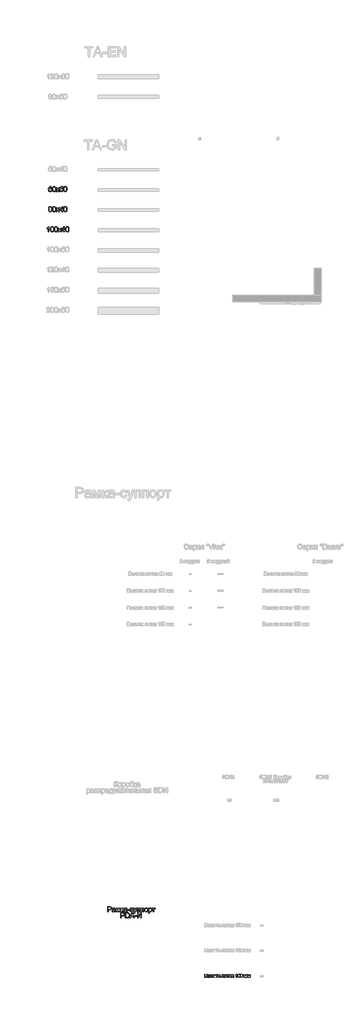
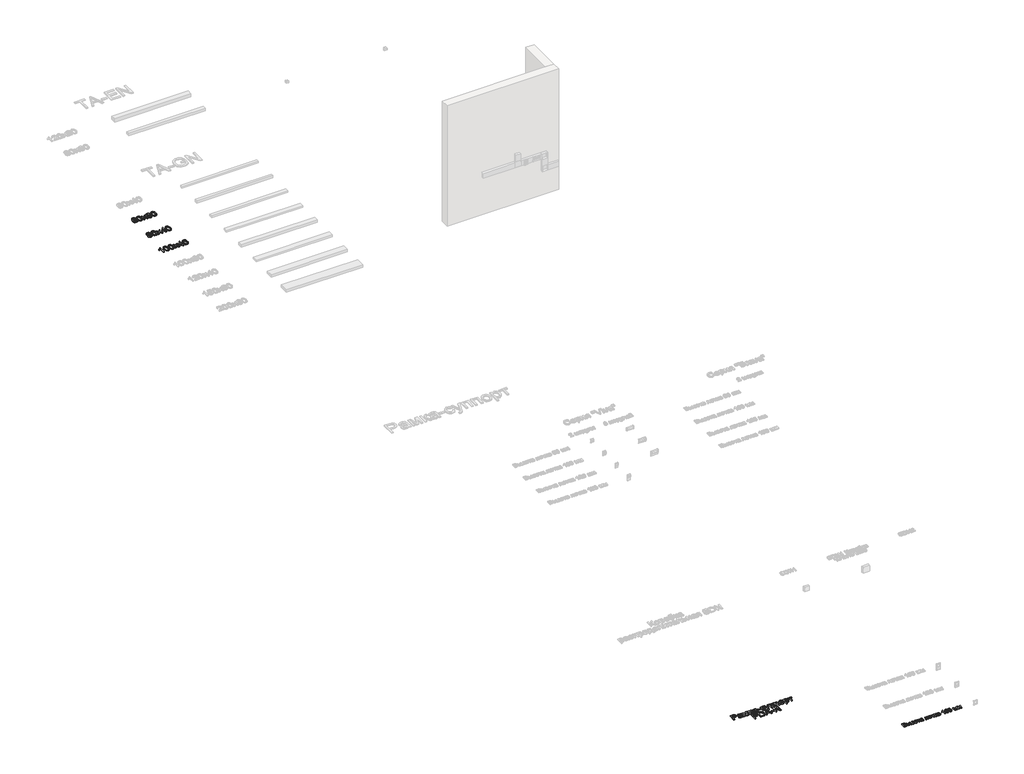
# One storey, part 3 of 28: 5 proxies.
"""IFC4 building model written with IfcOpenShell, lengths in millimetres."""

from ifc_helpers import new_model, si_unit, origin, origin_with_axes, place, context, project, spatial, polyline, outline, extrude, element, save

model = new_model("IFC4")

# Units and contexts
model_context = context("Model", 3, world=origin())
ifc_project = project(units=[si_unit("LENGTHUNIT", "METRE", prefix="MILLI")], contexts=[model_context])

# Site, building, storey
site = spatial("IfcSite", under=ifc_project)
building = spatial("IfcBuilding", under=site)
storey = spatial("IfcBuildingStorey", under=building, Name="Этаж 01", Elevation=0.0)

# Proxies
placement = place(None, origin())
element("IfcBuildingElementProxy", 1, Name="150 мм Arial", ObjectType="150 мм Arial", at=placement, inside=storey, context=model_context, shape_type="SweptSolid", body=[
    extrude(outline(polyline([(1246.5644264, -22004.1079879), (1246.5644264, -21853.4235227), (1302.4089133, -21853.4235227), (1324.9232914, -21854.8582624), (1343.2254206, -21861.9032027), (1355.089615, -21876.4713297), (1359.5777753, -21897.0175391), (1356.5473474, -21914.7770424), (1347.4560636, -21929.5750957), (1330.4553169, -21939.5630918), (1303.6965002, -21942.8924239), (1265.3999845, -21942.8924239), (1265.3999845, -22004.1079879), (1246.5644264, -22004.1079879)]), holes=[polyline([(1265.3999845, -21924.0568657), (1304.8001462, -21924.0568657), (1321.5019888, -21922.3278204), (1332.5384487, -21917.1406842), (1338.691275, -21908.8173541), (1340.7422172, -21897.6797267), (1335.9045689, -21882.0815301), (1323.194246, -21873.5466678), (1304.3586878, -21872.2590808), (1265.3999845, -21872.2590808), (1265.3999845, -21924.0568657)])]), origin_with_axes(), (0.0, 0.0, 1.0), 20.0),
    extrude(outline(polyline([(1453.7555661, -21989.9813193), (1435.490225, -22002.7468245), (1415.3118976, -22006.4624327), (1399.5711467, -22004.2275495), (1387.9598712, -21997.5229002), (1380.7999679, -21987.341766), (1378.4133335, -21974.6774283), (1382.018577, -21959.7782075), (1391.4915384, -21948.9624768), (1404.6801079, -21942.7820593), (1420.9772803, -21939.9493679), (1453.6452015, -21933.4746448), (1453.7555661, -21929.2807901), (1452.458782, -21920.8746865), (1448.5684299, -21915.3748506), (1439.8680208, -21911.2913605), (1427.746309, -21909.9301971), (1408.6900217, -21913.5538348), (1399.6033364, -21926.4113105), (1380.7677782, -21924.0568657), (1388.9163644, -21905.662766), (1405.3239014, -21894.8838235), (1430.1743302, -21891.094639), (1453.001408, -21894.4423651), (1465.8956719, -21902.8484687), (1471.6714192, -21915.632368), (1472.5911242, -21932.1134814), (1472.5911242, -21955.5475645), (1473.5476174, -21988.270668), (1477.3000138, -22004.1079879), (1458.4644556, -22004.1079879), (1453.7555661, -21989.9813193)]), holes=[polyline([(1453.7555661, -21952.310203), (1423.3685133, -21958.0859503), (1407.1633114, -21961.1393708), (1399.8240656, -21966.1057778), (1397.2488916, -21973.3530531), (1402.859092, -21983.5433844), (1419.3218113, -21987.6268745), (1438.3780987, -21983.1203201), (1450.6653573, -21972.2126189), (1453.6452015, -21957.6444919), (1453.7555661, -21952.310203)])]), origin_with_axes(), (0.0, 0.0, 1.0), 20.0),
    extrude(outline(polyline([(1498.4900167, -21893.4490837), (1530.9004205, -21893.4490837), (1555.8796079, -21982.0350682), (1582.80857, -21893.4490837), (1613.8578104, -21893.4490837), (1613.8578104, -22004.1079879), (1595.0222522, -22004.1079879), (1595.0222522, -21915.0069687), (1567.9461374, -22004.1079879), (1543.2244673, -22004.1079879), (1517.3255748, -21910.7395375), (1517.3255748, -22004.1079879), (1498.4900167, -22004.1079879), (1498.4900167, -21893.4490837)])), origin_with_axes(), (0.0, 0.0, 1.0), 20.0),
    extrude(outline(polyline([(1642.1111476, -21893.4490837), (1660.9467058, -21893.4490837), (1660.9467058, -21940.5379791), (1673.5650582, -21937.1534648), (1683.9025423, -21917.4349898), (1692.4925868, -21900.4204475), (1700.0709559, -21894.8838235), (1713.8481367, -21893.4490837), (1717.4533802, -21893.4490837), (1717.4533802, -21912.3950065), (1712.3766087, -21912.2846419), (1703.1795588, -21914.2712047), (1696.7048357, -21926.6688279), (1689.1080725, -21940.0781266), (1678.4578887, -21946.6448202), (1690.3404772, -21953.974869), (1702.0023364, -21969.4167157), (1722.1622698, -22004.1079879), (1700.7515376, -22004.1079879), (1680.9962745, -21970.1524797), (1671.0634606, -21955.7866878), (1660.9467058, -21952.310203), (1660.9467058, -22004.1079879), (1642.1111476, -22004.1079879), (1642.1111476, -21893.4490837)])), origin_with_axes(), (0.0, 0.0, 1.0), 20.0),
    extrude(outline(polyline([(1804.5678367, -21989.9813193), (1786.3024956, -22002.7468245), (1766.1241682, -22006.4624327), (1750.3834173, -22004.2275495), (1738.7721418, -21997.5229002), (1731.6122385, -21987.341766), (1729.2256041, -21974.6774283), (1732.8308476, -21959.7782075), (1742.303809, -21948.9624768), (1755.4923785, -21942.7820593), (1771.7895509, -21939.9493679), (1804.4574721, -21933.4746448), (1804.5678367, -21929.2807901), (1803.2710526, -21920.8746865), (1799.3807005, -21915.3748506), (1790.6802914, -21911.2913605), (1778.5585796, -21909.9301971), (1759.5022923, -21913.5538348), (1750.415607, -21926.4113105), (1731.5800488, -21924.0568657), (1739.728635, -21905.662766), (1756.136172, -21894.8838235), (1780.9866008, -21891.094639), (1803.8136786, -21894.4423651), (1816.7079425, -21902.8484687), (1822.4836898, -21915.632368), (1823.4033948, -21932.1134814), (1823.4033948, -21955.5475645), (1824.359888, -21988.270668), (1828.1122844, -22004.1079879), (1809.2767262, -22004.1079879), (1804.5678367, -21989.9813193)]), holes=[polyline([(1804.5678367, -21952.310203), (1774.1807839, -21958.0859503), (1757.975582, -21961.1393708), (1750.6363362, -21966.1057778), (1748.0611622, -21973.3530531), (1753.6713626, -21983.5433844), (1770.1340819, -21987.6268745), (1789.1903693, -21983.1203201), (1801.4776279, -21972.2126189), (1804.4574721, -21957.6444919), (1804.5678367, -21952.310203)])]), origin_with_axes(), (0.0, 0.0, 1.0), 20.0),
    extrude(outline(polyline([(1839.8845082, -21959.3735373), (1839.8845082, -21940.5379791), (1898.7456274, -21940.5379791), (1898.7456274, -21959.3735373), (1839.8845082, -21959.3735373)])), origin_with_axes(), (0.0, 0.0, 1.0), 20.0),
    extrude(outline(polyline([(1990.5689734, -21964.0824268), (2009.4045316, -21966.4368716), (2004.1530161, -21983.1892979), (1994.2845816, -21995.8490371), (1980.7281301, -22003.8090838), (1964.4125636, -22006.4624327), (1944.3767904, -22002.7606201), (1928.7096159, -21991.6551823), (1918.5974596, -21973.6335631), (1915.2267408, -21949.183206), (1916.6660791, -21932.4215826), (1920.984094, -21917.8948423), (1928.2497635, -21906.1640052), (1938.5320652, -21897.7900913), (1950.8331194, -21892.768502), (1964.1550462, -21891.094639), (1980.070541, -21893.3939014), (1992.7946595, -21900.2916888), (2001.9227315, -21911.4201192), (2007.0500868, -21926.4113105), (1988.2145287, -21928.7657553), (1979.4773313, -21914.6574808), (1964.302199, -21909.9301971), (1952.1299035, -21912.2570507), (1942.4684026, -21919.2376116), (1936.1638249, -21931.2489587), (1934.062299, -21948.6681712), (1936.1178396, -21966.3219085), (1942.2844616, -21978.3746423), (1951.7712185, -21985.3138165), (1963.7871642, -21987.6268745), (1973.5406356, -21986.1829377), (1981.5374705, -21981.8511272), (1987.3546045, -21974.5210784), (1990.5689734, -21964.0824268)])), origin_with_axes(), (0.0, 0.0, 1.0), 20.0),
    extrude(outline(polyline([(2025.885645, -22046.4879937), (2023.5312002, -22028.3514114), (2033.0961321, -22030.0068803), (2042.0356646, -22027.9283471), (2047.5171063, -22022.1342056), (2052.6674542, -22008.2650544), (2054.1389822, -22003.7033177), (2014.1134211, -21893.4490837), (2033.9790489, -21893.4490837), (2055.20584, -21954.8853769), (2062.6002681, -21979.4598942), (2069.9946962, -21957.7548565), (2091.8100985, -21893.4490837), (2111.5285734, -21893.4490837), (2073.0113286, -22006.7567383), (2063.0049383, -22031.3312555), (2052.078843, -22044.6117956), (2037.4003514, -22048.8424385), (2025.885645, -22046.4879937)])), origin_with_axes(), (0.0, 0.0, 1.0), 20.0),
    extrude(outline(polyline([(2127.12677, -21893.4490837), (2211.8867817, -21893.4490837), (2211.8867817, -22004.1079879), (2193.0512236, -22004.1079879), (2193.0512236, -21912.2846419), (2145.9623282, -21912.2846419), (2145.9623282, -22004.1079879), (2127.12677, -22004.1079879), (2127.12677, -21893.4490837)])), origin_with_axes(), (0.0, 0.0, 1.0), 20.0),
    extrude(outline(polyline([(2240.140119, -21893.4490837), (2324.9001307, -21893.4490837), (2324.9001307, -22004.1079879), (2306.0645725, -22004.1079879), (2306.0645725, -21912.2846419), (2258.9756771, -21912.2846419), (2258.9756771, -22004.1079879), (2240.140119, -22004.1079879), (2240.140119, -21893.4490837)])), origin_with_axes(), (0.0, 0.0, 1.0), 20.0),
    extrude(outline(polyline([(2348.4445783, -21948.7785358), (2352.5188714, -21922.0978941), (2364.7417507, -21903.3451094), (2379.8433066, -21894.1572566), (2397.9247067, -21891.094639), (2417.7121595, -21894.8240427), (2433.5172897, -21906.0122539), (2443.8777664, -21923.7763557), (2447.3312586, -21947.2334314), (2445.8045484, -21966.2621276), (2441.2244175, -21980.7474812), (2433.7242233, -21991.5954015), (2423.4373231, -21999.711798), (2411.2190423, -22004.774774), (2397.9247067, -22006.4624327), (2377.8981306, -22002.7468245), (2362.1113945, -21991.6), (2351.8612824, -21973.4634177), (2348.4445783, -21948.7785358)]), holes=[polyline([(2367.2801365, -21948.7417476), (2369.4598373, -21965.7884796), (2375.9989398, -21977.9331839), (2385.8397832, -21985.2034519), (2397.9247067, -21987.6268745), (2409.9544479, -21985.1896563), (2419.7768972, -21977.8780016), (2426.3159997, -21965.5723489), (2428.4957005, -21948.1531364), (2426.3022041, -21931.6030452), (2419.7217149, -21919.6238877), (2409.8854701, -21912.3536198), (2397.9247067, -21909.9301971), (2385.8397832, -21912.3444227), (2375.9989398, -21919.5870995), (2369.4598373, -21931.7042127), (2367.2801365, -21948.7417476)])]), origin_with_axes(), (0.0, 0.0, 1.0), 20.0),
    extrude(outline(polyline([(2468.5212616, -22046.4879937), (2468.5212616, -21893.4490837), (2487.3568197, -21893.4490837), (2487.3568197, -21911.9167599), (2500.3798423, -21896.3001692), (2517.9646017, -21891.094639), (2530.7025158, -21892.9156548), (2541.8401432, -21898.3787025), (2550.9084344, -21907.1526881), (2557.4383398, -21918.9065178), (2562.6990523, -21947.9324072), (2561.2137288, -21964.0410401), (2556.7577581, -21978.4482187), (2549.4736946, -21990.4227777), (2539.5040925, -21999.2335514), (2527.8928171, -22004.6552124), (2515.6837333, -22006.4624327), (2499.2945905, -22001.6247844), (2487.3568197, -21989.3927081), (2487.3568197, -22046.4879937), (2468.5212616, -22046.4879937)]), holes=[polyline([(2487.3568197, -21949.6614526), (2489.3939663, -21966.5472362), (2495.5054059, -21978.3562482), (2504.5231133, -21985.3092179), (2515.2790632, -21987.6268745), (2526.2097569, -21985.2264445), (2535.4573906, -21978.0251544), (2541.7619683, -21965.783881), (2543.8634942, -21948.263501), (2541.8125521, -21931.4696879), (2535.6597257, -21919.495129), (2526.6558139, -21912.3214301), (2516.0516153, -21909.9301971), (2505.4060301, -21912.4731814), (2496.0572289, -21920.1021343), (2489.531922, -21932.5779324), (2487.3568197, -21949.6614526)])]), origin_with_axes(), (0.0, 0.0, 1.0), 20.0),
    extrude(outline(polyline([(2574.4712762, -21893.4490837), (2663.9401774, -21893.4490837), (2663.9401774, -21912.2846419), (2628.6235059, -21912.2846419), (2628.6235059, -22004.1079879), (2609.7879477, -22004.1079879), (2609.7879477, -21912.2846419), (2574.4712762, -21912.2846419), (2574.4712762, -21893.4490837)])), origin_with_axes(), (0.0, 0.0, 1.0), 20.0),
    extrude(outline(polyline([(1639.7567028, -22187.0702147), (1639.7567028, -22036.3857494), (1695.6011897, -22036.3857494), (1718.1155678, -22037.8204892), (1736.4176971, -22044.8654294), (1748.2818914, -22059.4335564), (1752.7700518, -22079.9797659), (1749.7396238, -22097.7392692), (1740.64834, -22112.5373224), (1723.6475933, -22122.5253186), (1696.8887767, -22125.8546507), (1658.592261, -22125.8546507), (1658.592261, -22187.0702147), (1639.7567028, -22187.0702147)]), holes=[polyline([(1658.592261, -22107.0190925), (1697.9924227, -22107.0190925), (1714.6942653, -22105.2900471), (1725.7307251, -22100.102911), (1731.8835515, -22091.7795809), (1733.9344936, -22080.6419534), (1729.0968454, -22065.0437569), (1716.3865224, -22056.5088946), (1697.5509643, -22055.2213076), (1658.592261, -22055.2213076), (1658.592261, -22107.0190925)])]), origin_with_axes(), (0.0, 0.0, 1.0), 20.0),
    extrude(outline(polyline([(1778.6689442, -22187.0702147), (1778.6689442, -22036.3857494), (1830.6506701, -22036.3857494), (1857.542844, -22038.5562532), (1879.6893401, -22049.3351957), (1890.1095976, -22060.8131139), (1897.5316169, -22075.0869353), (1901.9737919, -22091.8807484), (1903.454517, -22110.9186417), (1899.4446032, -22141.3240886), (1889.1439074, -22163.2682496), (1875.3851207, -22176.9350657), (1857.3772971, -22184.4950407), (1833.1522677, -22187.0702147), (1778.6689442, -22187.0702147)]), holes=[polyline([(1797.5045024, -22168.2346565), (1830.8346111, -22168.2346565), (1855.0780346, -22165.5123297), (1869.0575504, -22157.823596), (1880.5170746, -22139.1167966), (1884.6189588, -22110.6243361), (1882.6094034, -22090.0965207), (1876.5807372, -22074.9397825), (1867.6733944, -22064.5287221), (1857.0278092, -22058.2379399), (1830.3195763, -22055.2213076), (1797.5045024, -22055.2213076), (1797.5045024, -22168.2346565)])]), origin_with_axes(), (0.0, 0.0, 1.0), 20.0),
    extrude(outline(polyline([(1911.8054383, -22187.0702147), (1971.9541445, -22036.3857494), (1987.9937995, -22036.3857494), (2048.1425057, -22187.0702147), (2028.2400897, -22187.0702147), (2010.9864242, -22139.9813193), (1948.9247316, -22139.9813193), (1931.7078542, -22187.0702147), (1911.8054383, -22187.0702147)]), holes=[polyline([(1955.8409131, -22121.1457611), (2004.1070309, -22121.1457611), (1990.5321852, -22084.1000442), (1979.973972, -22055.2213076), (1970.5929811, -22080.8626826), (1955.8409131, -22121.1457611)])]), origin_with_axes(), (0.0, 0.0, 1.0), 20.0),
    extrude(outline(polyline([(2056.493427, -22142.335764), (2056.493427, -22123.5002059), (2115.3545462, -22123.5002059), (2115.3545462, -22142.335764), (2056.493427, -22142.335764)])), origin_with_axes(), (0.0, 0.0, 1.0), 20.0),
    extrude(outline(polyline([(2138.8989939, -22187.0702147), (2138.8989939, -22036.3857494), (2159.0589272, -22036.3857494), (2237.7856742, -22155.7634569), (2237.7856742, -22036.3857494), (2256.6212323, -22036.3857494), (2256.6212323, -22187.0702147), (2236.461299, -22187.0702147), (2157.734552, -22067.655719), (2157.734552, -22187.0702147), (2138.8989939, -22187.0702147)])), origin_with_axes(), (0.0, 0.0, 1.0), 20.0),
])
element("IfcBuildingElementProxy", 2, Name="150 мм Arial", ObjectType="150 мм Arial", at=placement, inside=storey, context=model_context, shape_type="SweptSolid", body=[
    extrude(outline(polyline([(-418.304527, -409.9537309), (-437.1400852, -412.3081757), (-444.2769959, -396.5996145), (-452.8210552, -390.7226996), (-463.1493422, -388.763728), (-480.1454904, -393.3254647), (-493.0029661, -410.4503716), (-496.9071138, -424.4804712), (-498.3556492, -444.0196036), (-481.7457771, -428.9916241), (-461.1627794, -424.0803995), (-443.7619611, -427.4373227), (-429.1570459, -437.5080923), (-419.2518231, -452.8947568), (-415.9500822, -472.1993645), (-417.5043837, -485.6868381), (-422.167288, -498.1902274), (-429.552519, -508.7944259), (-439.2738007, -516.5843272), (-450.8896747, -521.3713916), (-463.9586826, -522.9670798), (-485.328028, -518.7364369), (-502.3471688, -506.044508), (-513.4801977, -483.6404945), (-517.1912073, -450.2735976), (-513.070929, -412.7588311), (-500.7100939, -387.108259), (-483.8335074, -374.2231921), (-461.9721198, -369.9281698), (-445.4450212, -372.5861172), (-432.2104664, -380.5599595), (-422.9398401, -393.2242972), (-418.304527, -409.9537309)]), holes=[polyline([(-498.3556492, -471.9050589), (-493.9962475, -488.2206254), (-482.4079647, -500.0664256), (-465.4302106, -504.1315216), (-453.0003977, -502.0253972), (-443.2285322, -495.707024), (-436.8963633, -485.7742101), (-434.7856404, -472.8247639), (-436.8687722, -460.3949509), (-443.1181676, -450.917391), (-453.05558, -444.916316), (-466.2027628, -442.9159577), (-478.6141816, -444.916316), (-488.9930524, -450.917391), (-496.015, -460.1650247), (-498.3556492, -471.9050589)])]), origin_with_axes(), (0.0, 0.0, 1.0), 20.0),
    extrude(outline(polyline([(-399.4689688, -446.484413), (-398.0848128, -422.3651497), (-393.9323448, -403.1295199), (-387.0529515, -388.4832179), (-377.4880196, -378.1319383), (-365.1685713, -371.9791119), (-350.0256287, -369.9281698), (-328.0262854, -374.7842121), (-312.832759, -388.7821221), (-304.0035911, -411.075771), (-300.5822885, -446.484413), (-301.952649, -470.4657206), (-306.0637303, -489.6553651), (-312.9017369, -504.3154626), (-322.4528732, -514.708129), (-334.7999126, -520.9023421), (-350.0256287, -522.9670798), (-369.5969508, -519.3802303), (-384.4593834, -508.619682), (-395.7165725, -483.1346568), (-399.4689688, -446.484413)]), holes=[polyline([(-380.6334107, -446.4476248), (-378.4261187, -476.075921), (-371.8042428, -493.2238205), (-361.9450053, -501.4045964), (-350.0256287, -504.1315216), (-338.1062521, -501.3953993), (-328.2470146, -493.1870323), (-321.6251387, -476.0299357), (-319.4178467, -446.4476248), (-321.5515623, -417.4861147), (-327.952709, -400.204858), (-337.7935524, -391.6240105), (-350.2463579, -388.763728), (-362.0369758, -391.2837196), (-371.5099372, -398.8436946), (-378.3525423, -417.2010062), (-380.6334107, -446.4476248)])]), origin_with_axes(), (0.0, 0.0, 1.0), 20.0),
    extrude(outline(polyline([(-291.1645095, -520.612635), (-250.9182192, -464.9888774), (-288.8100647, -409.9537309), (-266.1485338, -409.9537309), (-247.8647986, -436.4412345), (-239.3299363, -448.9492224), (-231.9355082, -438.7221029), (-211.1133873, -409.9537309), (-188.4518564, -409.9537309), (-228.2566883, -464.9888774), (-189.9233844, -520.612635), (-212.5849153, -520.612635), (-235.6511164, -487.1721617), (-239.8817593, -481.0653206), (-268.5029786, -520.612635), (-291.1645095, -520.612635)])), origin_with_axes(), (0.0, 0.0, 1.0), 20.0),
    extrude(outline(polyline([(-81.618925, -409.9537309), (-100.4544832, -412.3081757), (-107.5913939, -396.5996145), (-116.1354532, -390.7226996), (-126.4637402, -388.763728), (-143.4598884, -393.3254647), (-156.3173641, -410.4503716), (-160.2215118, -424.4804712), (-161.6700472, -444.0196036), (-145.0601751, -428.9916241), (-124.4771775, -424.0803995), (-107.0763591, -427.4373227), (-92.4714439, -437.5080923), (-82.5662212, -452.8947568), (-79.2644802, -472.1993645), (-80.8187817, -485.6868381), (-85.481686, -498.1902274), (-92.866917, -508.7944259), (-102.5881987, -516.5843272), (-114.2040727, -521.3713916), (-127.2730806, -522.9670798), (-148.642426, -518.7364369), (-165.6615668, -506.044508), (-176.7945957, -483.6404945), (-180.5056053, -450.2735976), (-176.385327, -412.7588311), (-164.0244919, -387.108259), (-147.1479054, -374.2231921), (-125.2865178, -369.9281698), (-108.7594192, -372.5861172), (-95.5248644, -380.5599595), (-86.2542382, -393.2242972), (-81.618925, -409.9537309)]), holes=[polyline([(-161.6700472, -471.9050589), (-157.3106455, -488.2206254), (-145.7223627, -500.0664256), (-128.7446086, -504.1315216), (-116.3147957, -502.0253972), (-106.5429302, -495.707024), (-100.2107613, -485.7742101), (-98.1000384, -472.8247639), (-100.1831702, -460.3949509), (-106.4325656, -450.917391), (-116.369978, -444.916316), (-129.5171608, -442.9159577), (-141.9285796, -444.916316), (-152.3074504, -450.917391), (-159.329398, -460.1650247), (-161.6700472, -471.9050589)])]), origin_with_axes(), (0.0, 0.0, 1.0), 20.0),
    extrude(outline(polyline([(-62.7833669, -446.484413), (-61.3992109, -422.3651497), (-57.2467428, -403.1295199), (-50.3673495, -388.4832179), (-40.8024177, -378.1319383), (-28.4829693, -371.9791119), (-13.3400267, -369.9281698), (8.6593166, -374.7842121), (23.852843, -388.7821221), (32.6820109, -411.075771), (36.1033134, -446.484413), (34.732953, -470.4657206), (30.6218717, -489.6553651), (23.7838651, -504.3154626), (14.2327288, -514.708129), (1.8856894, -520.9023421), (-13.3400267, -522.9670798), (-32.9113489, -519.3802303), (-47.7737815, -508.619682), (-59.0309705, -483.1346568), (-62.7833669, -446.484413)]), holes=[polyline([(-43.9478087, -446.4476248), (-41.7405167, -476.075921), (-35.1186408, -493.2238205), (-25.2594034, -501.4045964), (-13.3400267, -504.1315216), (-1.4206501, -501.3953993), (8.4385874, -493.1870323), (15.0604633, -476.0299357), (17.2677553, -446.4476248), (15.1340397, -417.4861147), (8.732893, -400.204858), (-1.1079504, -391.6240105), (-13.5607559, -388.763728), (-25.3513739, -391.2837196), (-34.8243352, -398.8436946), (-41.6669403, -417.2010062), (-43.9478087, -446.4476248)])]), origin_with_axes(), (0.0, 0.0, 1.0), 20.0),
])
element("IfcBuildingElementProxy", 3, Name="150 мм Arial", ObjectType="150 мм Arial", at=placement, inside=storey, context=model_context, shape_type="SweptSolid", body=[
    extrude(outline(polyline([(-487.3927657, -1037.6184569), (-504.5544608, -1025.9198095), (-510.127873, -1007.7096507), (-507.0928465, -992.9851739), (-497.9877672, -980.8174769), (-483.8335074, -972.6504966), (-465.6509398, -969.9281698), (-447.3580076, -972.7148759), (-433.0198068, -981.0749943), (-423.7491805, -993.4358293), (-420.6589718, -1008.2246855), (-426.1588076, -1025.9749918), (-442.8422561, -1037.6184569), (-431.2493747, -1043.5919408), (-422.8110814, -1052.388919), (-417.665332, -1063.5863273), (-415.9500822, -1076.7611012), (-419.3529907, -1094.7689249), (-429.5617161, -1109.6497516), (-445.3254595, -1119.6377477), (-465.3934224, -1122.9670798), (-485.4613852, -1119.6239522), (-501.2251287, -1109.5945693), (-511.4338541, -1094.5711883), (-514.8367625, -1076.2460664), (-513.0525349, -1062.5608562), (-507.6998518, -1051.3036671), (-499.0546249, -1042.8607754), (-487.3927657, -1037.6184569)]), holes=[polyline([(-491.2923148, -1008.2614737), (-489.6230503, -1016.4836363), (-484.6152566, -1023.0503299), (-476.4160867, -1027.3545493), (-465.1726932, -1028.789289), (-454.1914156, -1027.3637463), (-446.1164058, -1023.0871181), (-441.1499989, -1016.7411537), (-439.4945299, -1009.1076023), (-441.2051812, -1001.1843438), (-446.337135, -994.6314458), (-454.5225094, -990.2306574), (-465.3934224, -988.763728), (-476.3333132, -990.1984677), (-484.504892, -994.5026871), (-489.5954591, -1000.8118633), (-491.2923148, -1008.2614737)]), polyline([(-496.0012044, -1075.5838788), (-492.8558133, -1089.7657297), (-481.727383, -1100.3791253), (-465.2462696, -1104.1315216), (-452.4255821, -1102.1587544), (-442.8054679, -1096.2404529), (-436.7905973, -1087.2779277), (-434.7856404, -1076.17249), (-436.8549766, -1064.8785128), (-443.0629853, -1055.7182511), (-452.9038286, -1049.6481982), (-465.871669, -1047.6248472), (-478.513014, -1049.620607), (-488.0365592, -1055.6078865), (-494.0100431, -1064.5934042), (-496.0012044, -1075.5838788)])]), origin_with_axes(), (0.0, 0.0, 1.0), 20.0),
    extrude(outline(polyline([(-399.4689688, -1046.484413), (-398.0848128, -1022.3651497), (-393.9323448, -1003.1295199), (-387.0529515, -988.4832179), (-377.4880196, -978.1319383), (-365.1685713, -971.9791119), (-350.0256287, -969.9281698), (-328.0262854, -974.7842121), (-312.832759, -988.7821221), (-304.0035911, -1011.075771), (-300.5822885, -1046.484413), (-301.952649, -1070.4657206), (-306.0637303, -1089.6553651), (-312.9017369, -1104.3154626), (-322.4528732, -1114.708129), (-334.7999126, -1120.9023421), (-350.0256287, -1122.9670798), (-369.5969508, -1119.3802303), (-384.4593834, -1108.619682), (-395.7165725, -1083.1346568), (-399.4689688, -1046.484413)]), holes=[polyline([(-380.6334107, -1046.4476248), (-378.4261187, -1076.075921), (-371.8042428, -1093.2238205), (-361.9450053, -1101.4045964), (-350.0256287, -1104.1315216), (-338.1062521, -1101.3953993), (-328.2470146, -1093.1870323), (-321.6251387, -1076.0299357), (-319.4178467, -1046.4476248), (-321.5515623, -1017.4861147), (-327.952709, -1000.204858), (-337.7935524, -991.6240105), (-350.2463579, -988.763728), (-362.0369758, -991.2837196), (-371.5099372, -998.8436946), (-378.3525423, -1017.2010062), (-380.6334107, -1046.4476248)])]), origin_with_axes(), (0.0, 0.0, 1.0), 20.0),
    extrude(outline(polyline([(-291.1645095, -1120.612635), (-250.9182192, -1064.9888774), (-288.8100647, -1009.9537309), (-266.1485338, -1009.9537309), (-247.8647986, -1036.4412345), (-239.3299363, -1048.9492224), (-231.9355082, -1038.7221029), (-211.1133873, -1009.9537309), (-188.4518564, -1009.9537309), (-228.2566883, -1064.9888774), (-189.9233844, -1120.612635), (-212.5849153, -1120.612635), (-235.6511164, -1087.1721617), (-239.8817593, -1081.0653206), (-268.5029786, -1120.612635), (-291.1645095, -1120.612635)])), origin_with_axes(), (0.0, 0.0, 1.0), 20.0),
    extrude(outline(polyline([(-116.9355966, -1120.612635), (-116.9355966, -1085.2959635), (-185.2144949, -1085.2959635), (-185.2144949, -1066.4604053), (-112.226707, -972.2826146), (-98.1000384, -972.2826146), (-98.1000384, -1066.4604053), (-79.2644802, -1066.4604053), (-79.2644802, -1085.2959635), (-98.1000384, -1085.2959635), (-98.1000384, -1120.612635), (-116.9355966, -1120.612635)]), holes=[polyline([(-116.9355966, -1066.4604053), (-116.9355966, -1008.2614737), (-162.0379292, -1066.4604053), (-116.9355966, -1066.4604053)])]), origin_with_axes(), (0.0, 0.0, 1.0), 20.0),
    extrude(outline(polyline([(-62.7833669, -1046.484413), (-61.3992109, -1022.3651497), (-57.2467428, -1003.1295199), (-50.3673495, -988.4832179), (-40.8024177, -978.1319383), (-28.4829693, -971.9791119), (-13.3400267, -969.9281698), (8.6593166, -974.7842121), (23.852843, -988.7821221), (32.6820109, -1011.075771), (36.1033134, -1046.484413), (34.732953, -1070.4657206), (30.6218717, -1089.6553651), (23.7838651, -1104.3154626), (14.2327288, -1114.708129), (1.8856894, -1120.9023421), (-13.3400267, -1122.9670798), (-32.9113489, -1119.3802303), (-47.7737815, -1108.619682), (-59.0309705, -1083.1346568), (-62.7833669, -1046.484413)]), holes=[polyline([(-43.9478087, -1046.4476248), (-41.7405167, -1076.075921), (-35.1186408, -1093.2238205), (-25.2594034, -1101.4045964), (-13.3400267, -1104.1315216), (-1.4206501, -1101.3953993), (8.4385874, -1093.1870323), (15.0604633, -1076.0299357), (17.2677553, -1046.4476248), (15.1340397, -1017.4861147), (8.732893, -1000.204858), (-1.1079504, -991.6240105), (-13.5607559, -988.763728), (-25.3513739, -991.2837196), (-34.8243352, -998.8436946), (-41.6669403, -1017.2010062), (-43.9478087, -1046.4476248)])]), origin_with_axes(), (0.0, 0.0, 1.0), 20.0),
])
element("IfcBuildingElementProxy", 4, Name="150 мм Arial", ObjectType="150 мм Arial", at=placement, inside=storey, context=model_context, shape_type="SweptSolid", body=[
    extrude(outline(polyline([(-501.8873163, -1720.612635), (-520.7228745, -1720.612635), (-520.7228745, -1603.1847022), (-538.5651512, -1615.8950251), (-558.3939908, -1625.4047747), (-558.3939908, -1607.5992861), (-530.784447, -1589.9777385), (-514.0274221, -1569.9281698), (-501.8873163, -1569.9281698), (-501.8873163, -1720.612635)])), origin_with_axes(), (0.0, 0.0, 1.0), 20.0),
    extrude(outline(polyline([(-457.1528657, -1646.484413), (-455.7687097, -1622.3651497), (-451.6162417, -1603.1295199), (-444.7368484, -1588.4832179), (-435.1719165, -1578.1319383), (-422.8524682, -1571.9791119), (-407.7095255, -1569.9281698), (-385.7101822, -1574.7842121), (-370.5166558, -1588.7821221), (-361.6874879, -1611.075771), (-358.2661854, -1646.484413), (-359.6365458, -1670.4657206), (-363.7476271, -1689.6553651), (-370.5856337, -1704.3154626), (-380.13677, -1714.708129), (-392.4838095, -1720.9023421), (-407.7095255, -1722.9670798), (-427.2808477, -1719.3802303), (-442.1432803, -1708.619682), (-453.4004693, -1683.1346568), (-457.1528657, -1646.484413)]), holes=[polyline([(-438.3173075, -1646.4476248), (-436.1100156, -1676.075921), (-429.4881397, -1693.2238205), (-419.6289022, -1701.4045964), (-407.7095255, -1704.1315216), (-395.7901489, -1701.3953993), (-385.9309114, -1693.1870323), (-379.3090355, -1676.0299357), (-377.1017435, -1646.4476248), (-379.2354591, -1617.4861147), (-385.6366058, -1600.204858), (-395.4774492, -1591.6240105), (-407.9302547, -1588.763728), (-419.7208727, -1591.2837196), (-429.1938341, -1598.8436946), (-436.0364392, -1617.2010062), (-438.3173075, -1646.4476248)])]), origin_with_axes(), (0.0, 0.0, 1.0), 20.0),
    extrude(outline(polyline([(-341.785072, -1646.484413), (-340.400916, -1622.3651497), (-336.248448, -1603.1295199), (-329.3690547, -1588.4832179), (-319.8041228, -1578.1319383), (-307.4846745, -1571.9791119), (-292.3417319, -1569.9281698), (-270.3423885, -1574.7842121), (-255.1488621, -1588.7821221), (-246.3196943, -1611.075771), (-242.8983917, -1646.484413), (-244.2687521, -1670.4657206), (-248.3798334, -1689.6553651), (-255.21784, -1704.3154626), (-264.7689763, -1714.708129), (-277.1160158, -1720.9023421), (-292.3417319, -1722.9670798), (-311.913054, -1719.3802303), (-326.7754866, -1708.619682), (-338.0326757, -1683.1346568), (-341.785072, -1646.484413)]), holes=[polyline([(-322.9495139, -1646.4476248), (-320.7422219, -1676.075921), (-314.120346, -1693.2238205), (-304.2611085, -1701.4045964), (-292.3417319, -1704.1315216), (-280.4223552, -1701.3953993), (-270.5631177, -1693.1870323), (-263.9412418, -1676.0299357), (-261.7339499, -1646.4476248), (-263.8676654, -1617.4861147), (-270.2688121, -1600.204858), (-280.1096555, -1591.6240105), (-292.5624611, -1588.763728), (-304.353079, -1591.2837196), (-313.8260404, -1598.8436946), (-320.6686455, -1617.2010062), (-322.9495139, -1646.4476248)])]), origin_with_axes(), (0.0, 0.0, 1.0), 20.0),
    extrude(outline(polyline([(-233.4806126, -1720.612635), (-193.2343224, -1664.9888774), (-231.1261679, -1609.9537309), (-208.464637, -1609.9537309), (-190.1809018, -1636.4412345), (-181.6460395, -1648.9492224), (-174.2516114, -1638.7221029), (-153.4294905, -1609.9537309), (-130.7679596, -1609.9537309), (-170.5727915, -1664.9888774), (-132.2394876, -1720.612635), (-154.9010185, -1720.612635), (-177.9672196, -1687.1721617), (-182.1978625, -1681.0653206), (-210.8190817, -1720.612635), (-233.4806126, -1720.612635)])), origin_with_axes(), (0.0, 0.0, 1.0), 20.0),
    extrude(outline(polyline([(-59.2516997, -1720.612635), (-59.2516997, -1685.2959635), (-127.530598, -1685.2959635), (-127.530598, -1666.4604053), (-54.5428102, -1572.2826146), (-40.4161416, -1572.2826146), (-40.4161416, -1666.4604053), (-21.5805834, -1666.4604053), (-21.5805834, -1685.2959635), (-40.4161416, -1685.2959635), (-40.4161416, -1720.612635), (-59.2516997, -1720.612635)]), holes=[polyline([(-59.2516997, -1666.4604053), (-59.2516997, -1608.2614737), (-104.3540323, -1666.4604053), (-59.2516997, -1666.4604053)])]), origin_with_axes(), (0.0, 0.0, 1.0), 20.0),
    extrude(outline(polyline([(-5.09947, -1646.484413), (-3.715314, -1622.3651497), (0.437154, -1603.1295199), (7.3165473, -1588.4832179), (16.8814792, -1578.1319383), (29.2009275, -1571.9791119), (44.3438701, -1569.9281698), (66.3432134, -1574.7842121), (81.5367398, -1588.7821221), (90.3659077, -1611.075771), (93.7872103, -1646.484413), (92.4168499, -1670.4657206), (88.3057686, -1689.6553651), (81.467762, -1704.3154626), (71.9166257, -1714.708129), (59.5695862, -1720.9023421), (44.3438701, -1722.9670798), (24.772548, -1719.3802303), (9.9101154, -1708.619682), (-1.3470737, -1683.1346568), (-5.09947, -1646.484413)]), holes=[polyline([(13.7360881, -1646.4476248), (15.9433801, -1676.075921), (22.565256, -1693.2238205), (32.4244935, -1701.4045964), (44.3438701, -1704.1315216), (56.2632468, -1701.3953993), (66.1224842, -1693.1870323), (72.7443602, -1676.0299357), (74.9516521, -1646.4476248), (72.8179366, -1617.4861147), (66.4167898, -1600.204858), (56.5759465, -1591.6240105), (44.1231409, -1588.763728), (32.332523, -1591.2837196), (22.8595616, -1598.8436946), (16.0169565, -1617.2010062), (13.7360881, -1646.4476248)])]), origin_with_axes(), (0.0, 0.0, 1.0), 20.0),
])
element("IfcBuildingElementProxy", 5, Name="100 мм Arial", ObjectType="100 мм Arial", at=placement, inside=storey, context=model_context, shape_type="SweptSolid", body=[
    extrude(outline(polyline([(4139.0594517, -23961.5831211), (4139.0594517, -23861.126811), (4177.3927556, -23861.126811), (4196.1670001, -23864.0821297), (4207.2525109, -23873.168815), (4211.2624246, -23886.0201593), (4207.890173, -23897.755595), (4197.6998417, -23906.6460765), (4210.0729395, -23916.0148047), (4214.4016843, -23931.6375267), (4211.4463656, -23945.1387959), (4204.1255139, -23954.7527788), (4193.1994187, -23959.8540758), (4177.09845, -23961.5831211), (4139.0594517, -23961.5831211)]), holes=[polyline([(4151.6164905, -23901.937187), (4174.5478015, -23901.937187), (4187.9387061, -23900.8580665), (4195.9953218, -23896.2104906), (4198.7053859, -23888.0312476), (4196.1792628, -23879.8397418), (4188.9442503, -23874.9959622), (4172.8064934, -23873.6838498), (4151.6164905, -23873.6838498), (4151.6164905, -23901.937187)]), polyline([(4151.6164905, -23949.0260824), (4177.3682301, -23949.0260824), (4186.6879074, -23948.535573), (4194.5728448, -23945.8009835), (4199.7967691, -23940.2214399), (4201.8446456, -23931.7601541), (4199.4411499, -23921.9990185), (4191.6543143, -23916.1742202), (4176.1419568, -23914.4942258), (4151.6164905, -23914.4942258), (4151.6164905, -23949.0260824)])]), origin_with_axes(), (0.0, 0.0, 1.0), 20.0),
    extrude(outline(polyline([(4299.161696, -23887.8105184), (4311.7187348, -23887.8105184), (4311.7187348, -23961.5831211), (4299.161696, -23961.5831211), (4299.161696, -23887.8105184)])), origin_with_axes(), (0.0, 0.0, 1.0), 20.0),
    extrude(outline(polyline([(4230.0979828, -23887.8105184), (4242.6550216, -23887.8105184), (4242.6550216, -23914.4942258), (4258.1796418, -23914.4942258), (4271.5981375, -23916.0669213), (4281.5401484, -23920.7850079), (4287.6929748, -23928.2683408), (4289.7439169, -23938.1367753), (4288.0240686, -23947.122293), (4282.8645236, -23954.7037278), (4273.9280568, -23959.8632728), (4260.8774431, -23961.5831211), (4230.0979828, -23961.5831211), (4230.0979828, -23887.8105184)]), holes=[polyline([(4242.6550216, -23949.0260824), (4255.5554169, -23949.0260824), (4272.2082085, -23946.3895947), (4277.1868782, -23938.1613008), (4273.4957955, -23930.4357789), (4257.1986231, -23927.0512645), (4242.6550216, -23927.0512645), (4242.6550216, -23949.0260824)])]), origin_with_axes(), (0.0, 0.0, 1.0), 20.0),
    extrude(outline(polyline([(4377.6431883, -23934.8994138), (4390.2002271, -23936.4690436), (4386.6992168, -23947.6373278), (4380.1202604, -23956.0771539), (4371.0826261, -23961.3838517), (4360.2055817, -23963.152751), (4346.8483996, -23960.6848759), (4336.4036167, -23953.2812508), (4329.6621791, -23941.266838), (4327.4150332, -23924.9665999), (4331.2532687, -23904.1076908), (4342.9519162, -23890.7045234), (4360.0339035, -23886.2408885), (4370.6442334, -23887.7737302), (4379.126979, -23892.3722551), (4385.2123604, -23899.7912087), (4388.6305972, -23909.7853362), (4376.0735585, -23911.3549661), (4370.2487602, -23901.9494497), (4360.1320054, -23898.7979273), (4352.0171417, -23900.349163), (4345.5761411, -23905.0028703), (4341.3730893, -23913.010435), (4339.972072, -23924.6232434), (4341.3424324, -23936.3924015), (4345.4535137, -23944.4275574), (4351.7780184, -23949.0536735), (4359.7886488, -23950.5957122), (4371.6221863, -23946.745214), (4377.6431883, -23934.8994138)])), origin_with_axes(), (0.0, 0.0, 1.0), 20.0),
    extrude(outline(polyline([(4398.0483763, -23924.6968198), (4400.7645717, -23906.9097253), (4408.9131579, -23894.4078688), (4418.9808618, -23888.2826336), (4431.0351286, -23886.2408885), (4444.2267638, -23888.7271577), (4454.7635172, -23896.1859651), (4461.6705017, -23908.0286997), (4463.9728299, -23923.6667502), (4459.9016024, -23946.00945), (4448.0435395, -23958.6523279), (4431.0351286, -23963.152751), (4417.6840778, -23960.6756789), (4407.1595871, -23953.2444626), (4400.326179, -23941.1534077), (4398.0483763, -23924.6968198)]), holes=[polyline([(4410.6054151, -23924.6722943), (4412.058549, -23936.0367823), (4416.4179506, -23944.1332518), (4422.9785129, -23948.9800971), (4431.0351286, -23950.5957122), (4439.054956, -23948.9709001), (4445.6032556, -23944.0964636), (4449.9626572, -23935.8926951), (4451.4157911, -23924.2798868), (4449.9534602, -23913.2464927), (4445.5664674, -23905.2603877), (4439.0089708, -23900.4135424), (4431.0351286, -23898.7979273), (4422.9785129, -23900.407411), (4416.4179506, -23905.2358622), (4412.058549, -23913.3139377), (4410.6054151, -23924.6722943)])]), origin_with_axes(), (0.0, 0.0, 1.0), 20.0),
    extrude(outline(polyline([(4471.8209791, -23887.8105184), (4531.4669132, -23887.8105184), (4531.4669132, -23900.3675571), (4507.9224655, -23900.3675571), (4507.9224655, -23961.5831211), (4495.3654268, -23961.5831211), (4495.3654268, -23900.3675571), (4471.8209791, -23900.3675571), (4471.8209791, -23887.8105184)])), origin_with_axes(), (0.0, 0.0, 1.0), 20.0),
    extrude(outline(polyline([(4589.5432175, -23952.1653421), (4577.3663235, -23960.6756789), (4563.9141052, -23963.152751), (4553.4202713, -23961.6628289), (4545.679421, -23957.1930627), (4540.9061521, -23950.4056398), (4539.3150625, -23941.9627481), (4541.7185582, -23932.0299342), (4548.0338658, -23924.8194471), (4556.8262454, -23920.6991687), (4567.691027, -23918.8107078), (4589.4696411, -23914.4942258), (4589.5432175, -23911.6983226), (4586.0851268, -23902.4276963), (4572.2037128, -23898.7979273), (4559.4995213, -23901.2136857), (4553.4417311, -23909.7853362), (4540.8846923, -23908.2157064), (4546.3170831, -23895.9529732), (4557.2554411, -23888.7670116), (4573.8223936, -23886.2408885), (4589.0404455, -23888.472706), (4597.6366214, -23894.076775), (4601.4871197, -23902.5993746), (4602.1002563, -23913.5867835), (4602.1002563, -23929.2095056), (4602.7379184, -23951.0249079), (4605.239516, -23961.5831211), (4592.6824772, -23961.5831211), (4589.5432175, -23952.1653421)]), holes=[polyline([(4589.5432175, -23927.0512645), (4569.2851823, -23930.9017627), (4558.4817144, -23932.9373764), (4553.5888839, -23936.2483144), (4551.8721012, -23941.0798313), (4555.6122349, -23947.8733854), (4566.587381, -23950.5957122), (4579.2915726, -23947.5913426), (4587.4830784, -23940.3195418), (4589.4696411, -23930.6074571), (4589.5432175, -23927.0512645)])]), origin_with_axes(), (0.0, 0.0, 1.0), 20.0),
    extrude(outline(polyline([(4664.8854502, -23887.8105184), (4721.3921246, -23887.8105184), (4721.3921246, -23961.5095447), (4708.8350858, -23961.5095447), (4708.8350858, -23900.3675571), (4677.4424889, -23900.3675571), (4677.4424889, -23935.5616013), (4676.5963603, -23951.7974601), (4671.9487845, -23958.6523279), (4660.9613755, -23961.5831211), (4650.7587815, -23960.945459), (4650.7587815, -23949.0260824), (4656.3751133, -23949.0260824), (4662.0527588, -23948.2535302), (4664.3213644, -23945.8009835), (4664.8854502, -23934.8503628), (4664.8854502, -23887.8105184)])), origin_with_axes(), (0.0, 0.0, 1.0), 20.0),
    extrude(outline(polyline([(4737.0884231, -23924.6968198), (4739.8046185, -23906.9097253), (4747.9532047, -23894.4078688), (4758.0209086, -23888.2826336), (4770.0751753, -23886.2408885), (4783.2668105, -23888.7271577), (4793.803564, -23896.1859651), (4800.7105485, -23908.0286997), (4803.0128766, -23923.6667502), (4798.9416492, -23946.00945), (4787.0835862, -23958.6523279), (4770.0751753, -23963.152751), (4756.7241246, -23960.6756789), (4746.1996338, -23953.2444626), (4739.3662258, -23941.1534077), (4737.0884231, -23924.6968198)]), holes=[polyline([(4749.6454618, -23924.6722943), (4751.0985957, -23936.0367823), (4755.4579974, -23944.1332518), (4762.0185596, -23948.9800971), (4770.0751753, -23950.5957122), (4778.0950028, -23948.9709001), (4784.6433023, -23944.0964636), (4789.002704, -23935.8926951), (4790.4558378, -23924.2798868), (4788.9935069, -23913.2464927), (4784.6065141, -23905.2603877), (4778.0490176, -23900.4135424), (4770.0751753, -23898.7979273), (4762.0185596, -23900.407411), (4755.4579974, -23905.2358622), (4751.0985957, -23913.3139377), (4749.6454618, -23924.6722943)])]), origin_with_axes(), (0.0, 0.0, 1.0), 20.0),
    extrude(outline(polyline([(4810.8610258, -23887.8105184), (4870.50696, -23887.8105184), (4870.50696, -23900.3675571), (4846.9625123, -23900.3675571), (4846.9625123, -23961.5831211), (4834.4054735, -23961.5831211), (4834.4054735, -23900.3675571), (4810.8610258, -23900.3675571), (4810.8610258, -23887.8105184)])), origin_with_axes(), (0.0, 0.0, 1.0), 20.0),
    extrude(outline(polyline([(4881.4943689, -23887.8105184), (4894.0514077, -23887.8105184), (4894.0514077, -23919.2031153), (4902.4636426, -23916.9467724), (4909.3552987, -23903.8011224), (4915.0819951, -23892.4580942), (4920.1342411, -23888.7670116), (4929.3190283, -23887.8105184), (4931.722524, -23887.8105184), (4931.722524, -23900.4411335), (4928.3380096, -23900.3675571), (4922.206643, -23901.6919323), (4917.890161, -23909.9570145), (4912.8256522, -23918.896547), (4905.7255297, -23923.2743427), (4913.6472553, -23928.1610419), (4921.4218281, -23938.4556064), (4934.8617837, -23961.5831211), (4920.5879623, -23961.5831211), (4907.4177868, -23938.9461157), (4900.7959109, -23929.3689211), (4894.0514077, -23927.0512645), (4894.0514077, -23961.5831211), (4881.4943689, -23961.5831211), (4881.4943689, -23887.8105184)])), origin_with_axes(), (0.0, 0.0, 1.0), 20.0),
    extrude(outline(polyline([(4989.7988283, -23952.1653421), (4977.6219343, -23960.6756789), (4964.169716, -23963.152751), (4953.6758821, -23961.6628289), (4945.9350317, -23957.1930627), (4941.1617628, -23950.4056398), (4939.5706732, -23941.9627481), (4941.9741689, -23932.0299342), (4948.2894765, -23924.8194471), (4957.0818562, -23920.6991687), (4967.9466378, -23918.8107078), (4989.7252519, -23914.4942258), (4989.7988283, -23911.6983226), (4986.3407375, -23902.4276963), (4972.4593236, -23898.7979273), (4959.755132, -23901.2136857), (4953.6973418, -23909.7853362), (4941.1403031, -23908.2157064), (4946.5726939, -23895.9529732), (4957.5110519, -23888.7670116), (4974.0780044, -23886.2408885), (4989.2960562, -23888.472706), (4997.8922322, -23894.076775), (5001.7427304, -23902.5993746), (5002.3558671, -23913.5867835), (5002.3558671, -23929.2095056), (5002.9935292, -23951.0249079), (5005.4951268, -23961.5831211), (4992.938088, -23961.5831211), (4989.7988283, -23952.1653421)]), holes=[polyline([(4989.7988283, -23927.0512645), (4969.5407931, -23930.9017627), (4958.7373252, -23932.9373764), (4953.8444946, -23936.2483144), (4952.127712, -23941.0798313), (4955.8678456, -23947.8733854), (4966.8429918, -23950.5957122), (4979.5471834, -23947.5913426), (4987.7386891, -23940.3195418), (4989.7252519, -23930.6074571), (4989.7988283, -23927.0512645)])]), origin_with_axes(), (0.0, 0.0, 1.0), 20.0),
    extrude(outline(polyline([(5102.8121772, -23961.5831211), (5090.2551384, -23961.5831211), (5090.2551384, -23883.2978326), (5078.3602873, -23891.7713812), (5065.1410609, -23898.1112142), (5065.1410609, -23886.2408885), (5083.5474234, -23874.4931901), (5094.7187733, -23861.126811), (5102.8121772, -23861.126811), (5102.8121772, -23961.5831211)])), origin_with_axes(), (0.0, 0.0, 1.0), 20.0),
    extrude(outline(polyline([(5132.6351443, -23912.1643064), (5136.326227, -23883.2610444), (5147.2891104, -23866.59599), (5165.5973711, -23861.126811), (5180.2635999, -23864.3641725), (5190.3926175, -23873.6961125), (5196.2787295, -23888.5585451), (5198.5595978, -23912.1643064), (5194.9053033, -23940.9449412), (5183.9792081, -23957.6467838), (5175.7478484, -23961.7762592), (5165.5973711, -23963.152751), (5152.549823, -23960.761518), (5142.6415346, -23953.5878191), (5135.1367419, -23936.5978023), (5132.6351443, -23912.1643064)]), holes=[polyline([(5145.1921831, -23912.139781), (5146.663711, -23931.8919784), (5151.078295, -23943.3239114), (5157.65112, -23948.777762), (5165.5973711, -23950.5957122), (5173.5436222, -23948.7716307), (5180.1164471, -23943.299386), (5184.5310311, -23931.8613216), (5186.0025591, -23912.139781), (5184.580082, -23892.8321076), (5180.3126509, -23881.3112698), (5173.7520886, -23875.5907048), (5165.4502183, -23873.6838498), (5157.5898063, -23875.3638442), (5151.2744987, -23880.4038275), (5146.712762, -23892.6420352), (5145.1921831, -23912.139781)])]), origin_with_axes(), (0.0, 0.0, 1.0), 20.0),
    extrude(outline(polyline([(5209.5470067, -23912.1643064), (5213.2380894, -23883.2610444), (5224.2009729, -23866.59599), (5242.5092335, -23861.126811), (5257.1754624, -23864.3641725), (5267.30448, -23873.6961125), (5273.1905919, -23888.5585451), (5275.4714603, -23912.1643064), (5271.8171658, -23940.9449412), (5260.8910705, -23957.6467838), (5252.6597109, -23961.7762592), (5242.5092335, -23963.152751), (5229.4616854, -23960.761518), (5219.553397, -23953.5878191), (5212.0486043, -23936.5978023), (5209.5470067, -23912.1643064)]), holes=[polyline([(5222.1040455, -23912.139781), (5223.5755735, -23931.8919784), (5227.9901574, -23943.3239114), (5234.5629824, -23948.777762), (5242.5092335, -23950.5957122), (5250.4554846, -23948.7716307), (5257.0283096, -23943.299386), (5261.4428935, -23931.8613216), (5262.9144215, -23912.139781), (5261.4919445, -23892.8321076), (5257.2245133, -23881.3112698), (5250.6639511, -23875.5907048), (5242.3620807, -23873.6838498), (5234.5016688, -23875.3638442), (5228.1863612, -23880.4038275), (5223.6246244, -23892.6420352), (5222.1040455, -23912.139781)])]), origin_with_axes(), (0.0, 0.0, 1.0), 20.0),
    extrude(outline(polyline([(5328.8388751, -23887.8105184), (5350.4458109, -23887.8105184), (5367.0986025, -23946.8678413), (5385.0512439, -23887.8105184), (5405.7507375, -23887.8105184), (5405.7507375, -23961.5831211), (5393.1936987, -23961.5831211), (5393.1936987, -23902.1824416), (5375.1429555, -23961.5831211), (5358.6618421, -23961.5831211), (5341.3959138, -23899.3374876), (5341.3959138, -23961.5831211), (5328.8388751, -23961.5831211), (5328.8388751, -23887.8105184)])), origin_with_axes(), (0.0, 0.0, 1.0), 20.0),
    extrude(outline(polyline([(5424.5862957, -23887.8105184), (5446.1932315, -23887.8105184), (5462.8460232, -23946.8678413), (5480.7986645, -23887.8105184), (5501.4981581, -23887.8105184), (5501.4981581, -23961.5831211), (5488.9411194, -23961.5831211), (5488.9411194, -23902.1824416), (5470.8903761, -23961.5831211), (5454.4092627, -23961.5831211), (5437.1433344, -23899.3374876), (5437.1433344, -23961.5831211), (5424.5862957, -23961.5831211), (5424.5862957, -23887.8105184)])), origin_with_axes(), (0.0, 0.0, 1.0), 20.0),
])

save(model, "model.ifc")
